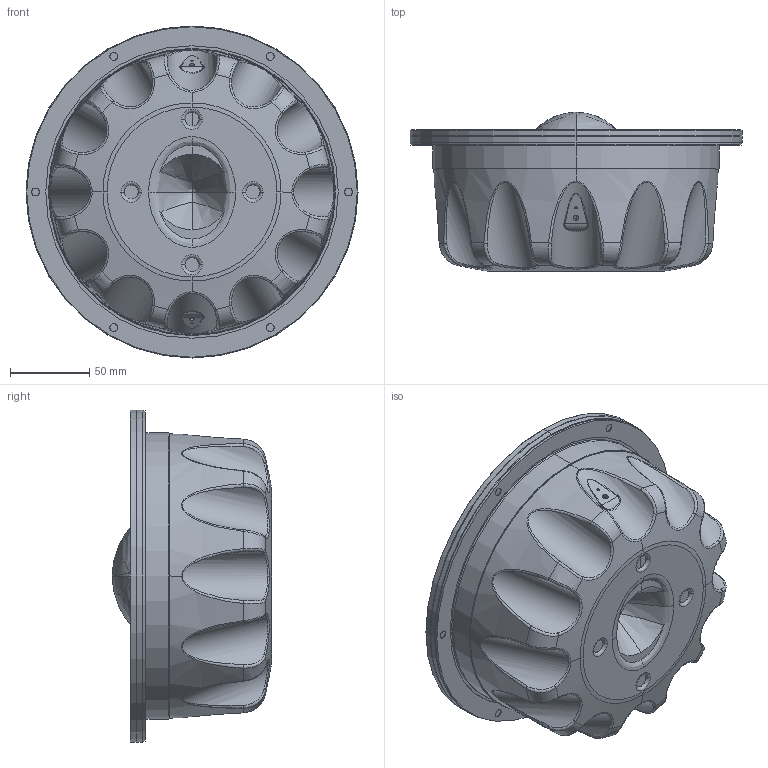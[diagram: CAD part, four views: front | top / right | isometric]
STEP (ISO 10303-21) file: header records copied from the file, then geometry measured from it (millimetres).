
FILE_DESCRIPTION (( 'STEP AP214' ), '1' );
FILE_NAME ('D8408-552000.STEP', '2022-05-04T07:44:22', ( '' ), ( '' ), 'SwSTEP 2.0', 'SolidWorks 2020', '' );
FILE_SCHEMA (( 'AUTOMOTIVE_DESIGN' ));
Length unit declared in the file: millimetre
Products named in the file (1): D8408-552000
Bounding box: 210 x 100.67 x 210 mm (x, y, z)
Volume: 1921067.9 mm3; surface area: 182714.5 mm2
Topology: 1 solids, 16 shells, 426 faces, 982 edges, 602 vertices
Faces by surface type: bspline 226, cylinder 88, cone 65, plane 24, torus 23
Entity records: 56353 total; most frequent: CARTESIAN_POINT 44570, ORIENTED_EDGE 1948, DIRECTION 1029, EDGE_CURVE 974, B_SPLINE_CURVE_WITH_KNOTS 613, VERTEX_POINT 602, AXIS2_PLACEMENT_3D 473, EDGE_LOOP 458
